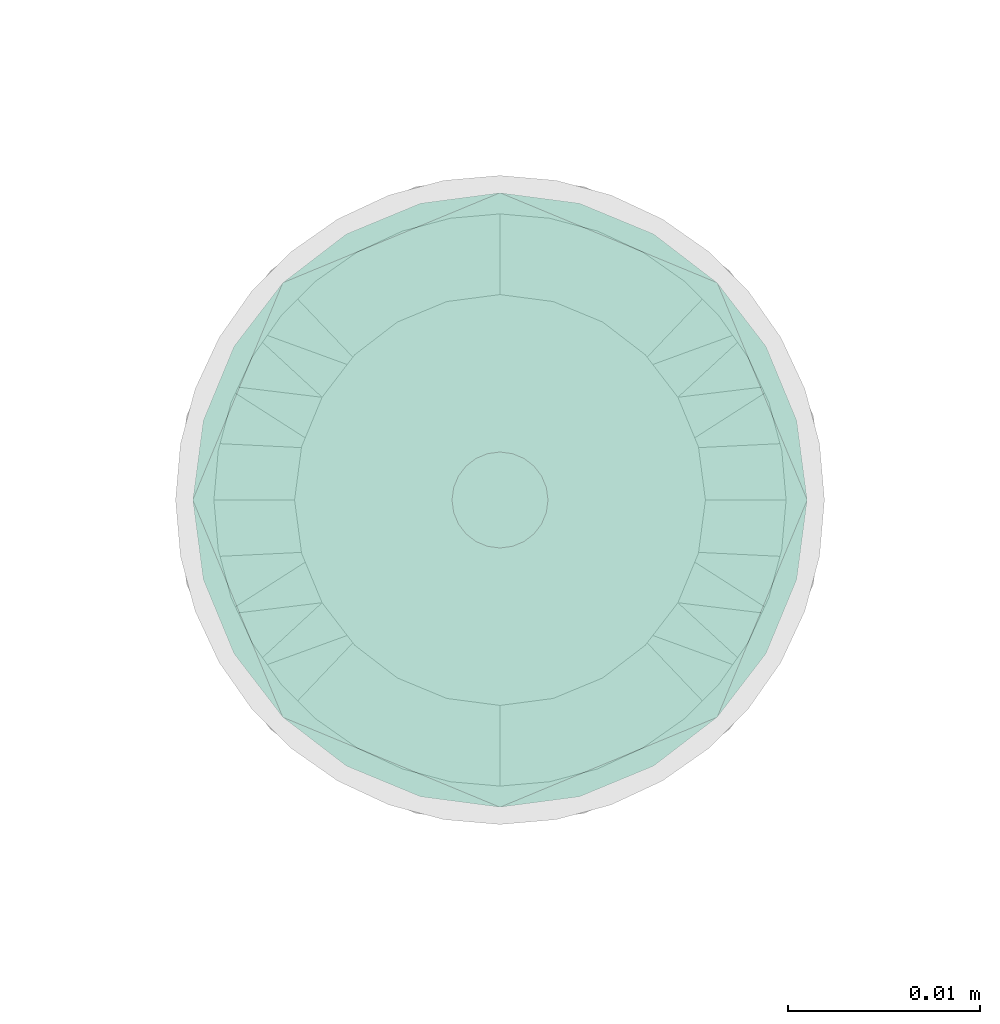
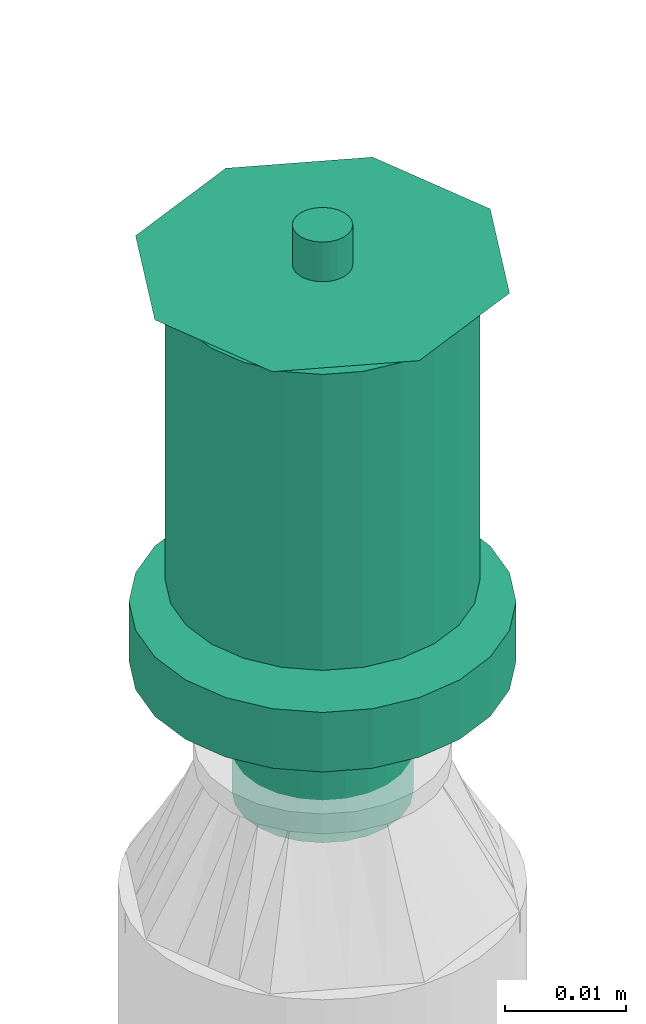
# One storey, part 12 of 44: 1 flow terminal.
"""IFC2X3 building model written with IfcOpenShell, lengths in millimetres."""

from ifc_helpers import new_model, entity, si_unit, converted_unit, derived_unit, direction, frame, origin_with_axes, place, context, subcontext, project, spatial, open_shell, surface_model, source, transform, mapped, type_object, element, save


model = new_model("IFC2X3")

# Units and contexts
model_context = context("Model", 3, precision=0.01, world=frame((0.0, 4.29681676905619e-09, 0.0)), true_north=direction((4.01073788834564e-13, 1.0)))
plan_context = context("Plan", 3, precision=0.01, world=frame((0.0, 4.29681676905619e-09, 0.0)), true_north=direction((4.01073788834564e-13, 1.0)))
body_context = subcontext(model_context, "Body", "Model", "MODEL_VIEW")
ifc_project = project(units=[converted_unit("PLANEANGLEUNIT", "DEGREE", entity("IfcPositiveLengthMeasure", 0.0174532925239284), si_unit("PLANEANGLEUNIT", "RADIAN"), dimensions=[0, 0, 0, 0, 0, 0, 0]), si_unit("AREAUNIT", "SQUARE_METRE"), si_unit("LENGTHUNIT", "METRE", prefix="MILLI"), si_unit("MASSUNIT", "GRAM", prefix="KILO"), si_unit("POWERUNIT", "WATT"), si_unit("PRESSUREUNIT", "PASCAL"), si_unit("FORCEUNIT", "NEWTON", prefix="KILO"), si_unit("ELECTRICVOLTAGEUNIT", "VOLT"), si_unit("ELECTRICCURRENTUNIT", "AMPERE"), si_unit("THERMODYNAMICTEMPERATUREUNIT", "DEGREE_CELSIUS"), si_unit("TIMEUNIT", "SECOND"), si_unit("VOLUMEUNIT", "CUBIC_METRE"), derived_unit("LINEARVELOCITYUNIT", [(si_unit("LENGTHUNIT", "METRE"), 1), (si_unit("TIMEUNIT", "SECOND"), -1)]), derived_unit("VOLUMETRICFLOWRATEUNIT", [(si_unit("VOLUMEUNIT", "CUBIC_METRE"), 1), (si_unit("TIMEUNIT", "SECOND"), -1)]), derived_unit("THERMALTRANSMITTANCEUNIT", [(si_unit("POWERUNIT", "WATT"), 1), (si_unit("THERMODYNAMICTEMPERATUREUNIT", "KELVIN"), -1), (si_unit("AREAUNIT", "SQUARE_METRE"), -1)]), derived_unit("SOUNDPRESSUREUNIT", [(si_unit("PRESSUREUNIT", "PASCAL"), 1)])], contexts=[model_context, plan_context])

# Site, building, storey
site_placement = place(None, frame((0.0, -4.29681676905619e-09, 0.0), z_axis=(0.0, 0.0, 1.0), x_axis=(1.0, 0.0, 0.0)))
site = spatial("IfcSite", under=ifc_project, at=site_placement, CompositionType="ELEMENT")
building_placement = place(site_placement, frame((0.0, 4.29681676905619e-09, 0.0), z_axis=(0.0, 0.0, 1.0), x_axis=(1.0, 0.0, 0.0)))
building = spatial("IfcBuilding", under=site, at=building_placement, Name="mc-building", CompositionType="ELEMENT")
storey_placement = place(building_placement, frame((0.0, 0.0, 207370.0), z_axis=(0.0, 0.0, 1.0), x_axis=(1.0, 0.0, 0.0)))
storey = spatial("IfcBuildingStorey", under=building, at=storey_placement, Name="Nivå E", CompositionType="ELEMENT", Elevation=207370.0)

# Flow terminal
fire_suppression_terminal_type = type_object("IfcFireSuppressionTerminalType", Name="68DGR-STD-STÅENDE", PredefinedType="NOTDEFINED")
shared_shape = source(origin_with_axes(), body_context, "Body", "SurfaceModel", [
    surface_model("IfcShellBasedSurfaceModel", [(3.36465, -12.55704, 51.0), (6.5, -11.25833, 51.0), (9.19239, -9.19239, 51.0), (12.55704, -3.36465, 51.0), (-11.25833, -6.5, 51.0), (11.25833, -6.5, 51.0), (-13.0, 0.0, 51.0), (0.0, -13.0, 51.0), (-6.5, -11.25833, 51.0), (-3.36465, -12.55704, 51.0), (-9.19239, -9.19239, 51.0), (-12.55704, -3.36465, 51.0), (13.0, 0.0, 51.0), (12.55704, 3.36465, 51.0), (11.25833, 6.5, 51.0), (9.19239, 9.19239, 51.0), (6.5, 11.25833, 51.0), (3.36465, 12.55704, 51.0), (0.0, 13.0, 51.0), (-3.36465, 12.55704, 51.0), (-12.55704, 3.36465, 51.0), (-9.19239, 9.19239, 51.0), (-11.25833, 6.5, 51.0), (-6.5, 11.25833, 51.0), (0.0, 13.0, 21.14766), (3.36465, 12.55704, 21.14766), (6.5, 11.25833, 21.14766), (-3.36465, 12.55704, 21.14766), (9.19239, 9.19239, 21.14766), (11.25833, 6.5, 21.14766), (12.55704, 3.36465, 21.14766), (-12.55704, 3.36465, 21.14766), (-11.25833, -6.5, 21.14766), (-9.19239, 9.19239, 21.14766), (-6.5, 11.25833, 21.14766), (-11.25833, 6.5, 21.14766), (-13.0, 0.0, 21.14766), (12.55704, -3.36465, 21.14766), (9.19239, -9.19239, 21.14766), (11.25833, -6.5, 21.14766), (6.5, -11.25833, 21.14766), (3.36465, -12.55704, 21.14766), (-6.5, -11.25833, 21.14766), (-9.19239, -9.19239, 21.14766), (-12.55704, -3.36465, 21.14766), (0.0, -13.0, 21.14766), (-3.36465, -12.55704, 21.14766), (13.0, 0.0, 21.14766), (7.24444, -1.94114, 0.1), (1.94114, -7.24444, 0.1), (3.75, -6.49519, 0.1), (5.3033, -5.3033, 0.1), (-5.3033, -5.3033, 0.1), (6.49519, -3.75, 0.1), (5.3033, 5.3033, 0.1), (0.0, -7.5, 0.1), (-3.75, -6.49519, 0.1), (-1.94114, -7.24444, 0.1), (-7.24444, -1.94114, 0.1), (-6.49519, -3.75, 0.1), (-7.24444, 1.94114, 0.1), (7.5, 0.0, 0.1), (6.49519, 3.75, 0.1), (-6.49519, 3.75, 0.1), (1.94114, 7.24444, 0.1), (0.0, 7.5, 0.1), (3.75, 6.49519, 0.1), (-7.5, 0.0, 0.1), (-5.3033, 5.3033, 0.1), (-1.94114, 7.24444, 0.1), (-3.75, 6.49519, 0.1), (7.24444, 1.94114, 0.1), (1.94114, 7.24444, -0.1), (-6.49519, 3.75, -0.1), (0.0, 7.5, -0.1), (5.3033, 5.3033, -0.1), (3.75, 6.49519, -0.1), (6.49519, 3.75, -0.1), (7.24444, 1.94114, -0.1), (-1.94114, 7.24444, -0.1), (-5.3033, 5.3033, -0.1), (-3.75, 6.49519, -0.1), (-7.24444, 1.94114, -0.1), (-7.24444, -1.94114, -0.1), (-7.5, 0.0, -0.1), (7.5, 0.0, -0.1), (7.24444, -1.94114, -0.1), (-5.3033, -5.3033, -0.1), (1.94114, -7.24444, -0.1), (6.49519, -3.75, -0.1), (5.3033, -5.3033, -0.1), (3.75, -6.49519, -0.1), (-6.49519, -3.75, -0.1), (-3.75, -6.49519, -0.1), (0.0, -7.5, -0.1), (-1.94114, -7.24444, -0.1), (0.0, -2.5, 51.0), (-2.5, 0.0, 51.0), (0.0, 2.5, 51.0), (2.5, 0.0, 51.0), (0.0, -16.0, 53.0), (11.31371, -11.31371, 53.0), (-11.31371, -11.31371, 53.0), (-16.0, 0.0, 53.0), (16.0, 0.0, 53.0), (11.31371, 11.31371, 53.0), (0.0, 16.0, 53.0), (-11.31371, 11.31371, 53.0), (1.25, -2.16506, 57.0), (0.0, -2.5, 57.0), (0.64705, -2.41481, 57.0), (2.41481, -0.64705, 57.0), (1.76777, -1.76777, 57.0), (-2.41481, -0.64705, 57.0), (-2.5, 0.0, 57.0), (2.16506, -1.25, 57.0), (-1.25, -2.16506, 57.0), (-0.64705, -2.41481, 57.0), (-1.76777, -1.76777, 57.0), (-2.16506, -1.25, 57.0), (2.5, 0.0, 57.0), (2.41481, 0.64705, 57.0), (2.16506, 1.25, 57.0), (1.76777, 1.76777, 57.0), (0.64705, 2.41481, 57.0), (1.25, 2.16506, 57.0), (-1.76777, 1.76777, 57.0), (0.0, 2.5, 57.0), (-2.16506, 1.25, 57.0), (-2.41481, 0.64705, 57.0), (-0.64705, 2.41481, 57.0), (-1.25, 2.16506, 57.0), (1.25, 2.16506, 51.0), (1.76777, 1.76777, 51.0), (1.15, 1.99186, 51.0), (0.59528, 2.22163, 51.0), (0.64705, 2.41481, 51.0), (0.0, 2.3, 51.0), (1.62635, 1.62635, 51.0), (2.41481, 0.64705, 51.0), (2.3, 0.0, 51.0), (2.22163, 0.59528, 51.0), (2.16506, 1.25, 51.0), (1.99186, 1.15, 51.0), (-0.59528, 2.22163, 51.0), (-0.64705, 2.41481, 51.0), (-1.15, 1.99186, 51.0), (-1.76777, 1.76777, 51.0), (-1.25, 2.16506, 51.0), (-1.62635, 1.62635, 51.0), (-1.99186, 1.15, 51.0), (-2.16506, 1.25, 51.0), (-2.22163, 0.59528, 51.0), (-2.41481, 0.64705, 51.0), (-2.3, 0.0, 51.0), (2.41481, -0.64705, 51.0), (2.22163, -0.59528, 51.0), (1.99186, -1.15, 51.0), (2.16506, -1.25, 51.0), (1.62635, -1.62635, 51.0), (1.76777, -1.76777, 51.0), (1.25, -2.16506, 51.0), (1.15, -1.99186, 51.0), (0.59528, -2.22163, 51.0), (0.64705, -2.41481, 51.0), (0.0, -2.3, 51.0), (-2.16506, -1.25, 51.0), (-1.99186, -1.15, 51.0), (-1.76777, -1.76777, 51.0), (-1.62635, -1.62635, 51.0), (-2.41481, -0.64705, 51.0), (-2.22163, -0.59528, 51.0), (-0.59528, -2.22163, 51.0), (-0.64705, -2.41481, 51.0), (-1.15, -1.99186, 51.0), (-1.25, -2.16506, 51.0), (1.62635, -1.62635, 56.8), (1.15, -1.99186, 56.8), (0.59528, -2.22163, 56.8), (0.0, -2.3, 56.8), (2.22163, 0.59528, 56.8), (1.99186, -1.15, 56.8), (2.22163, -0.59528, 56.8), (-0.59528, -2.22163, 56.8), (-1.15, -1.99186, 56.8), (-1.62635, -1.62635, 56.8), (-1.99186, -1.15, 56.8), (-2.22163, -0.59528, 56.8), (-1.99186, 1.15, 56.8), (2.3, 0.0, 56.8), (1.62635, 1.62635, 56.8), (1.99186, 1.15, 56.8), (1.15, 1.99186, 56.8), (0.0, 2.3, 56.8), (0.59528, 2.22163, 56.8), (-2.22163, 0.59528, 56.8), (-2.3, 0.0, 56.8), (-1.15, 1.99186, 56.8), (-0.59528, 2.22163, 56.8), (-1.62635, 1.62635, 56.8), (4.1411, -15.45481, 19.0), (8.0, -13.85641, 19.0), (11.31371, -11.31371, 19.0), (-8.0, -13.85641, 19.0), (15.45481, -4.1411, 19.0), (16.0, 0.0, 19.0), (13.85641, -8.0, 19.0), (0.0, -16.0, 19.0), (-4.1411, -15.45481, 19.0), (-13.85641, -8.0, 19.0), (-11.31371, -11.31371, 19.0), (-15.45481, -4.1411, 19.0), (15.45481, 4.1411, 19.0), (13.85641, 8.0, 19.0), (11.31371, 11.31371, 19.0), (-4.1411, 15.45481, 19.0), (8.0, 13.85641, 19.0), (4.1411, 15.45481, 19.0), (0.0, 16.0, 19.0), (-13.85641, 8.0, 19.0), (-15.45481, 4.1411, 19.0), (-16.0, 0.0, 19.0), (-11.31371, 11.31371, 19.0), (-8.0, 13.85641, 19.0), (0.0, 16.0, 13.0), (4.1411, 15.45481, 13.0), (8.0, 13.85641, 13.0), (-4.1411, 15.45481, 13.0), (11.31371, 11.31371, 13.0), (13.85641, 8.0, 13.0), (15.45481, 4.1411, 13.0), (-15.45481, -4.1411, 13.0), (-11.31371, 11.31371, 13.0), (-8.0, 13.85641, 13.0), (-13.85641, 8.0, 13.0), (-15.45481, 4.1411, 13.0), (-16.0, 0.0, 13.0), (4.1411, -15.45481, 13.0), (16.0, 0.0, 13.0), (15.45481, -4.1411, 13.0), (13.85641, -8.0, 13.0), (11.31371, -11.31371, 13.0), (8.0, -13.85641, 13.0), (-8.0, -13.85641, 13.0), (-13.85641, -8.0, 13.0), (-11.31371, -11.31371, 13.0), (0.0, -16.0, 13.0), (-4.1411, -15.45481, 13.0), (7.24444, -1.94114, 13.0), (1.94114, -7.24444, 13.0), (3.75, -6.49519, 13.0), (5.3033, -5.3033, 13.0), (-5.3033, -5.3033, 13.0), (6.49519, -3.75, 13.0), (5.3033, 5.3033, 13.0), (0.0, -7.5, 13.0), (-3.75, -6.49519, 13.0), (-1.94114, -7.24444, 13.0), (-7.24444, -1.94114, 13.0), (-6.49519, -3.75, 13.0), (-7.24444, 1.94114, 13.0), (7.5, 0.0, 13.0), (6.49519, 3.75, 13.0), (-6.49519, 3.75, 13.0), (1.94114, 7.24444, 13.0), (0.0, 7.5, 13.0), (3.75, 6.49519, 13.0), (-7.5, 0.0, 13.0), (-5.3033, 5.3033, 13.0), (-1.94114, 7.24444, 13.0), (-3.75, 6.49519, 13.0), (7.24444, 1.94114, 13.0), (3.75, 6.49519, 0.0), (5.3033, 5.3033, 0.0), (3.65, 6.32199, 0.0), (1.88938, 7.05126, 0.0), (0.0, 7.3, 0.0), (1.94114, 7.24444, 0.0), (0.0, 7.5, 0.0), (5.16188, 5.16188, 0.0), (7.24444, 1.94114, 0.0), (7.3, 0.0, 0.0), (7.05126, 1.88938, 0.0), (7.5, 0.0, 0.0), (6.49519, 3.75, 0.0), (6.32199, 3.65, 0.0), (-1.88938, 7.05126, 0.0), (-1.94114, 7.24444, 0.0), (-3.65, 6.32199, 0.0), (-5.3033, 5.3033, 0.0), (-3.75, 6.49519, 0.0), (-5.16188, 5.16188, 0.0), (-6.32199, 3.65, 0.0), (-6.49519, 3.75, 0.0), (-7.05126, 1.88938, 0.0), (-7.24444, 1.94114, 0.0), (-7.3, 0.0, 0.0), (-7.5, 0.0, 0.0), (7.24444, -1.94114, 0.0), (7.05126, -1.88938, 0.0), (6.32199, -3.65, 0.0), (6.49519, -3.75, 0.0), (5.16188, -5.16188, 0.0), (5.3033, -5.3033, 0.0), (3.75, -6.49519, 0.0), (3.65, -6.32199, 0.0), (1.88938, -7.05126, 0.0), (1.94114, -7.24444, 0.0), (0.0, -7.3, 0.0), (0.0, -7.5, 0.0), (-6.49519, -3.75, 0.0), (-6.32199, -3.65, 0.0), (-5.3033, -5.3033, 0.0), (-5.16188, -5.16188, 0.0), (-7.24444, -1.94114, 0.0), (-7.05126, -1.88938, 0.0), (-1.88938, -7.05126, 0.0), (-1.94114, -7.24444, 0.0), (-3.65, -6.32199, 0.0), (-3.75, -6.49519, 0.0), (1.88938, -7.05126, 12.8), (0.0, -7.3, 12.8), (3.65, -6.32199, 12.8), (5.16188, -5.16188, 12.8), (6.32199, -3.65, 12.8), (7.05126, 1.88938, 12.8), (7.05126, -1.88938, 12.8), (-5.16188, -5.16188, 12.8), (-1.88938, -7.05126, 12.8), (-3.65, -6.32199, 12.8), (-6.32199, -3.65, 12.8), (-7.05126, -1.88938, 12.8), (0.0, 7.3, 12.8), (7.3, 0.0, 12.8), (6.32199, 3.65, 12.8), (5.16188, 5.16188, 12.8), (3.65, 6.32199, 12.8), (1.88938, 7.05126, 12.8), (-6.32199, 3.65, 12.8), (-7.05126, 1.88938, 12.8), (-7.3, 0.0, 12.8), (-3.65, 6.32199, 12.8), (-1.88938, 7.05126, 12.8), (-5.16188, 5.16188, 12.8)], [open_shell([[[0, 1, 2]], [[0, 2, 3]], [[0, 3, 4]], [[3, 2, 5]], [[6, 4, 3]], [[7, 8, 9]], [[7, 0, 8]], [[8, 4, 10]], [[0, 4, 8]], [[4, 6, 11]], [[6, 3, 12]], [[13, 14, 15]], [[6, 13, 15]], [[16, 17, 18]], [[15, 16, 19]], [[18, 19, 16]], [[20, 21, 22]], [[20, 6, 15]], [[21, 19, 23]], [[19, 21, 20]], [[15, 19, 20]], [[13, 6, 12]], [[24, 25, 26]], [[27, 24, 26]], [[28, 29, 30]], [[26, 28, 31]], [[28, 32, 31]], [[27, 33, 34]], [[33, 27, 31]], [[33, 31, 35]], [[27, 26, 31]], [[31, 32, 36]], [[32, 28, 30]], [[32, 30, 37]], [[38, 37, 39]], [[38, 40, 41]], [[38, 41, 37]], [[32, 37, 41]], [[32, 42, 43]], [[44, 36, 32]], [[42, 45, 46]], [[42, 32, 41]], [[45, 42, 41]], [[30, 47, 37]], [[4, 32, 43]], [[8, 42, 46]], [[43, 42, 10]], [[9, 46, 45]], [[36, 11, 6]], [[11, 36, 44]], [[11, 44, 4]], [[44, 32, 4]], [[43, 10, 4]], [[8, 10, 42]], [[46, 9, 8]], [[45, 7, 9]], [[0, 41, 40]], [[38, 1, 40]], [[5, 39, 37]], [[38, 39, 2]], [[3, 37, 47]], [[41, 0, 7]], [[40, 1, 0]], [[38, 2, 1]], [[39, 5, 2]], [[3, 5, 37]], [[47, 12, 3]], [[41, 7, 45]], [[30, 13, 47]], [[29, 14, 30]], [[25, 24, 17]], [[15, 29, 28]], [[30, 14, 13]], [[13, 12, 47]], [[16, 26, 17]], [[16, 15, 28]], [[26, 25, 17]], [[15, 14, 29]], [[28, 26, 16]], [[24, 18, 17]], [[19, 27, 34]], [[33, 23, 34]], [[22, 35, 31]], [[33, 35, 21]], [[20, 31, 36]], [[27, 19, 18]], [[34, 23, 19]], [[33, 21, 23]], [[35, 22, 21]], [[20, 22, 31]], [[36, 6, 20]], [[27, 18, 24]], [[48, 49, 50]], [[48, 50, 51]], [[49, 48, 52]], [[48, 51, 53]], [[54, 52, 48]], [[55, 56, 57]], [[56, 55, 52]], [[52, 58, 59]], [[52, 55, 49]], [[52, 60, 58]], [[54, 48, 61]], [[62, 54, 61]], [[54, 63, 52]], [[64, 65, 54]], [[64, 54, 66]], [[63, 54, 65]], [[63, 60, 52]], [[67, 58, 60]], [[68, 69, 70]], [[69, 68, 63]], [[69, 63, 65]], [[71, 62, 61]], [[72, 73, 74]], [[75, 72, 76]], [[75, 77, 78]], [[72, 75, 73]], [[78, 73, 75]], [[79, 80, 81]], [[80, 79, 73]], [[74, 73, 79]], [[78, 82, 73]], [[82, 83, 84]], [[82, 78, 85]], [[86, 87, 85]], [[88, 86, 89]], [[90, 91, 88]], [[90, 88, 89]], [[87, 86, 88]], [[83, 87, 92]], [[83, 85, 87]], [[93, 94, 95]], [[94, 93, 87]], [[88, 94, 87]], [[85, 83, 82]], [[83, 58, 84]], [[92, 59, 83]], [[56, 87, 93]], [[92, 87, 52]], [[57, 93, 95]], [[83, 59, 58]], [[58, 67, 84]], [[57, 56, 93]], [[52, 87, 56]], [[52, 59, 92]], [[55, 57, 95]], [[95, 94, 55]], [[88, 49, 94]], [[91, 50, 88]], [[53, 90, 89]], [[91, 90, 51]], [[48, 89, 86]], [[91, 51, 50]], [[50, 49, 88]], [[61, 48, 86]], [[53, 89, 48]], [[53, 51, 90]], [[85, 61, 86]], [[94, 49, 55]], [[78, 71, 85]], [[77, 62, 78]], [[66, 75, 76]], [[77, 75, 54]], [[64, 76, 72]], [[78, 62, 71]], [[71, 61, 85]], [[64, 66, 76]], [[54, 75, 66]], [[54, 62, 77]], [[65, 64, 72]], [[72, 74, 65]], [[79, 69, 74]], [[81, 70, 79]], [[63, 80, 73]], [[81, 80, 68]], [[60, 73, 82]], [[81, 68, 70]], [[70, 69, 79]], [[67, 60, 82]], [[63, 73, 60]], [[63, 68, 80]], [[84, 67, 82]], [[74, 69, 65]], [[96, 97, 98]], [[98, 99, 96]], [[100, 101, 102]], [[103, 102, 101]], [[101, 104, 103]], [[104, 105, 106]], [[107, 103, 106]], [[106, 103, 104]], [[99, 98, 105]], [[105, 104, 99]], [[98, 106, 105]], [[98, 107, 106]], [[107, 98, 97]], [[103, 107, 97]], [[97, 96, 102]], [[102, 103, 97]], [[96, 100, 102]], [[96, 101, 100]], [[101, 96, 99]], [[104, 101, 99]], [[108, 109, 110]], [[111, 108, 112]], [[113, 108, 114]], [[111, 112, 115]], [[108, 111, 114]], [[109, 116, 117]], [[116, 109, 118]], [[118, 113, 119]], [[118, 109, 108]], [[108, 113, 118]], [[111, 120, 114]], [[121, 122, 123]], [[114, 121, 123]], [[114, 123, 124]], [[124, 123, 125]], [[126, 124, 127]], [[124, 128, 129]], [[129, 114, 124]], [[126, 130, 131]], [[128, 124, 126]], [[130, 126, 127]], [[121, 114, 120]], [[132, 133, 134]], [[132, 134, 135]], [[136, 135, 137]], [[135, 136, 132]], [[136, 137, 98]], [[134, 133, 138]], [[139, 140, 141]], [[140, 139, 99]], [[139, 141, 142]], [[138, 142, 143]], [[142, 138, 133]], [[143, 142, 141]], [[98, 144, 145]], [[98, 137, 144]], [[145, 144, 146]], [[147, 148, 149]], [[146, 148, 145]], [[149, 148, 146]], [[150, 151, 147]], [[151, 150, 152]], [[150, 147, 149]], [[153, 152, 154]], [[152, 153, 151]], [[153, 154, 97]], [[99, 155, 156]], [[156, 155, 157]], [[157, 158, 159]], [[158, 157, 155]], [[159, 158, 160]], [[160, 161, 162]], [[162, 161, 163]], [[163, 164, 165]], [[164, 163, 161]], [[165, 164, 96]], [[162, 159, 160]], [[166, 167, 168]], [[168, 167, 169]], [[167, 166, 170]], [[97, 171, 170]], [[170, 171, 167]], [[97, 154, 171]], [[172, 96, 173]], [[172, 173, 174]], [[169, 175, 168]], [[175, 169, 174]], [[175, 174, 173]], [[165, 96, 172]], [[156, 140, 99]], [[170, 113, 97]], [[166, 119, 170]], [[116, 168, 175]], [[166, 168, 118]], [[117, 175, 173]], [[170, 119, 113]], [[113, 114, 97]], [[117, 116, 175]], [[118, 168, 116]], [[118, 119, 166]], [[109, 117, 173]], [[173, 96, 109]], [[164, 110, 96]], [[161, 108, 164]], [[115, 160, 158]], [[161, 160, 112]], [[111, 158, 155]], [[161, 112, 108]], [[108, 110, 164]], [[120, 111, 155]], [[115, 158, 111]], [[115, 112, 160]], [[99, 120, 155]], [[96, 110, 109]], [[139, 121, 99]], [[142, 122, 139]], [[125, 133, 132]], [[142, 133, 123]], [[124, 132, 136]], [[139, 122, 121]], [[121, 120, 99]], [[124, 125, 132]], [[123, 133, 125]], [[123, 122, 142]], [[127, 124, 136]], [[136, 98, 127]], [[145, 130, 98]], [[148, 131, 145]], [[128, 147, 151]], [[148, 147, 126]], [[129, 151, 153]], [[148, 126, 131]], [[131, 130, 145]], [[114, 129, 153]], [[128, 151, 129]], [[128, 126, 147]], [[97, 114, 153]], [[98, 130, 127]], [[176, 177, 178]], [[176, 178, 179]], [[180, 176, 179]], [[181, 176, 182]], [[180, 182, 176]], [[183, 184, 179]], [[185, 179, 184]], [[186, 187, 185]], [[185, 187, 188]], [[179, 185, 188]], [[189, 182, 180]], [[190, 191, 180]], [[192, 190, 180]], [[193, 194, 192]], [[180, 193, 192]], [[188, 193, 180]], [[195, 188, 196]], [[196, 188, 187]], [[197, 198, 199]], [[188, 199, 198]], [[188, 198, 193]], [[180, 179, 188]], [[154, 187, 171]], [[171, 186, 167]], [[174, 169, 184]], [[185, 169, 167]], [[172, 174, 183]], [[187, 186, 171]], [[154, 196, 187]], [[174, 184, 183]], [[184, 169, 185]], [[167, 186, 185]], [[172, 183, 179]], [[179, 165, 172]], [[165, 178, 163]], [[163, 177, 162]], [[157, 159, 181]], [[176, 159, 162]], [[156, 157, 182]], [[177, 176, 162]], [[163, 178, 177]], [[156, 182, 189]], [[182, 157, 181]], [[159, 176, 181]], [[156, 189, 140]], [[179, 178, 165]], [[140, 180, 141]], [[141, 191, 143]], [[134, 138, 192]], [[190, 138, 143]], [[135, 134, 194]], [[180, 191, 141]], [[140, 189, 180]], [[134, 192, 194]], [[192, 138, 190]], [[143, 191, 190]], [[135, 194, 193]], [[193, 137, 135]], [[137, 198, 144]], [[144, 197, 146]], [[150, 149, 188]], [[199, 149, 146]], [[152, 150, 195]], [[197, 199, 146]], [[144, 198, 197]], [[152, 195, 196]], [[195, 150, 188]], [[149, 199, 188]], [[152, 196, 154]], [[193, 198, 137]], [[200, 201, 202]], [[203, 200, 202]], [[204, 205, 202]], [[204, 202, 206]], [[203, 202, 205]], [[207, 203, 208]], [[207, 200, 203]], [[203, 209, 210]], [[209, 203, 211]], [[205, 211, 203]], [[205, 212, 211]], [[212, 213, 214]], [[215, 212, 214]], [[216, 217, 218]], [[214, 216, 215]], [[218, 215, 216]], [[211, 219, 220]], [[221, 211, 220]], [[222, 215, 223]], [[215, 222, 219]], [[219, 211, 215]], [[211, 212, 215]], [[224, 225, 226]], [[227, 224, 226]], [[228, 229, 230]], [[227, 226, 228]], [[227, 228, 231]], [[227, 232, 233]], [[232, 227, 234]], [[234, 231, 235]], [[231, 234, 227]], [[235, 231, 236]], [[228, 230, 231]], [[237, 238, 239]], [[237, 239, 240]], [[241, 242, 237]], [[241, 237, 240]], [[238, 237, 243]], [[244, 243, 245]], [[243, 244, 231]], [[243, 246, 247]], [[243, 231, 238]], [[237, 246, 243]], [[238, 231, 230]], [[231, 211, 236]], [[244, 209, 231]], [[203, 245, 243]], [[244, 245, 210]], [[208, 243, 247]], [[231, 209, 211]], [[211, 221, 236]], [[208, 203, 243]], [[210, 245, 203]], [[210, 209, 244]], [[207, 208, 247]], [[247, 246, 207]], [[237, 200, 246]], [[242, 201, 237]], [[206, 241, 240]], [[242, 241, 202]], [[204, 240, 239]], [[242, 202, 201]], [[201, 200, 237]], [[205, 204, 239]], [[206, 240, 204]], [[206, 202, 241]], [[238, 205, 239]], [[246, 200, 207]], [[230, 212, 238]], [[229, 213, 230]], [[216, 228, 226]], [[229, 228, 214]], [[217, 226, 225]], [[230, 213, 212]], [[212, 205, 238]], [[217, 216, 226]], [[214, 228, 216]], [[214, 213, 229]], [[218, 217, 225]], [[225, 224, 218]], [[227, 215, 224]], [[233, 223, 227]], [[219, 232, 234]], [[233, 232, 222]], [[220, 234, 235]], [[233, 222, 223]], [[223, 215, 227]], [[221, 220, 235]], [[219, 234, 220]], [[219, 222, 232]], [[236, 221, 235]], [[224, 215, 218]], [[248, 249, 250]], [[248, 250, 251]], [[249, 248, 252]], [[248, 251, 253]], [[254, 252, 248]], [[255, 256, 257]], [[256, 255, 252]], [[252, 258, 259]], [[252, 255, 249]], [[252, 260, 258]], [[254, 248, 261]], [[262, 254, 261]], [[254, 263, 252]], [[264, 265, 254]], [[264, 254, 266]], [[263, 254, 265]], [[263, 260, 252]], [[267, 258, 260]], [[268, 269, 270]], [[269, 268, 263]], [[269, 263, 265]], [[271, 262, 261]], [[272, 273, 274]], [[272, 274, 275]], [[276, 277, 275]], [[277, 276, 278]], [[275, 277, 272]], [[274, 273, 279]], [[280, 281, 282]], [[281, 280, 283]], [[280, 282, 284]], [[279, 284, 285]], [[284, 279, 273]], [[285, 284, 282]], [[278, 286, 287]], [[287, 286, 288]], [[289, 290, 291]], [[288, 290, 287]], [[288, 291, 290]], [[278, 276, 286]], [[292, 293, 289]], [[293, 292, 294]], [[292, 289, 291]], [[295, 294, 296]], [[294, 295, 293]], [[295, 296, 297]], [[283, 298, 299]], [[299, 298, 300]], [[300, 301, 302]], [[301, 300, 298]], [[302, 301, 303]], [[303, 304, 305]], [[305, 304, 306]], [[306, 307, 308]], [[307, 306, 304]], [[308, 307, 309]], [[305, 302, 303]], [[310, 311, 312]], [[312, 311, 313]], [[311, 310, 314]], [[297, 315, 314]], [[314, 315, 311]], [[297, 296, 315]], [[316, 309, 317]], [[316, 317, 318]], [[313, 319, 312]], [[313, 318, 319]], [[319, 318, 317]], [[308, 309, 316]], [[299, 281, 283]], [[314, 258, 297]], [[310, 259, 314]], [[256, 312, 319]], [[310, 312, 252]], [[257, 319, 317]], [[314, 259, 258]], [[258, 267, 297]], [[257, 256, 319]], [[252, 312, 256]], [[252, 259, 310]], [[255, 257, 317]], [[317, 309, 255]], [[307, 249, 309]], [[304, 250, 307]], [[253, 303, 301]], [[304, 303, 251]], [[248, 301, 298]], [[304, 251, 250]], [[250, 249, 307]], [[261, 248, 298]], [[253, 301, 248]], [[253, 251, 303]], [[283, 261, 298]], [[309, 249, 255]], [[280, 271, 283]], [[284, 262, 280]], [[266, 273, 272]], [[284, 273, 254]], [[264, 272, 277]], [[280, 262, 271]], [[271, 261, 283]], [[264, 266, 272]], [[254, 273, 266]], [[254, 262, 284]], [[265, 264, 277]], [[277, 278, 265]], [[287, 269, 278]], [[290, 270, 287]], [[263, 289, 293]], [[290, 289, 268]], [[260, 293, 295]], [[290, 268, 270]], [[270, 269, 287]], [[267, 260, 295]], [[263, 293, 260]], [[263, 268, 289]], [[297, 267, 295]], [[278, 269, 265]], [[320, 321, 322]], [[323, 322, 324]], [[325, 326, 322]], [[324, 322, 326]], [[322, 327, 325]], [[328, 329, 321]], [[327, 321, 329]], [[330, 331, 327]], [[322, 321, 327]], [[331, 332, 327]], [[326, 325, 333]], [[334, 325, 332]], [[335, 334, 336]], [[332, 337, 336]], [[334, 332, 336]], [[331, 338, 332]], [[339, 338, 340]], [[340, 338, 331]], [[341, 342, 343]], [[332, 338, 343]], [[332, 343, 342]], [[332, 325, 327]], [[296, 331, 315]], [[315, 330, 311]], [[318, 313, 329]], [[327, 313, 311]], [[316, 318, 328]], [[331, 330, 315]], [[296, 340, 331]], [[318, 329, 328]], [[329, 313, 327]], [[311, 330, 327]], [[316, 328, 321]], [[321, 308, 316]], [[308, 320, 306]], [[306, 322, 305]], [[300, 302, 324]], [[323, 302, 305]], [[299, 300, 326]], [[322, 323, 305]], [[306, 320, 322]], [[299, 326, 333]], [[326, 300, 324]], [[302, 323, 324]], [[299, 333, 281]], [[321, 320, 308]], [[281, 325, 282]], [[282, 334, 285]], [[274, 279, 336]], [[335, 279, 285]], [[275, 274, 337]], [[325, 334, 282]], [[281, 333, 325]], [[274, 336, 337]], [[336, 279, 335]], [[285, 334, 335]], [[275, 337, 332]], [[332, 276, 275]], [[276, 342, 286]], [[286, 341, 288]], [[292, 291, 338]], [[343, 291, 288]], [[294, 292, 339]], [[341, 343, 288]], [[286, 342, 341]], [[294, 339, 340]], [[339, 292, 338]], [[291, 343, 338]], [[294, 340, 296]], [[332, 342, 276]]])]),
])
flow_terminal_placement = place(storey_placement, frame((530500.0, 447009.83177, 3036.95754999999), z_axis=(0.0, 0.0, 1.0), x_axis=(1.0, 0.0, 0.0)))
element("IfcFlowTerminal", 1, at=flow_terminal_placement, inside=storey, type_object=fire_suppression_terminal_type, Name="68DGR-STD-STÅENDE", context=body_context, shape_type="MappedRepresentation", body=[
    mapped(shared_shape, transform((0.0, 0.0, 0.0), scale=1.0)),
])

save(model, "model.ifc")
